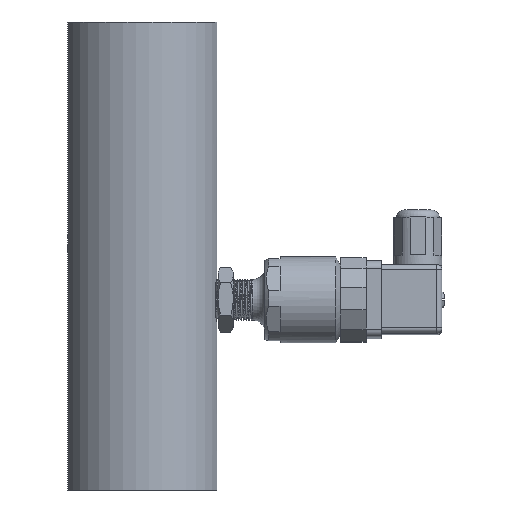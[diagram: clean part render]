
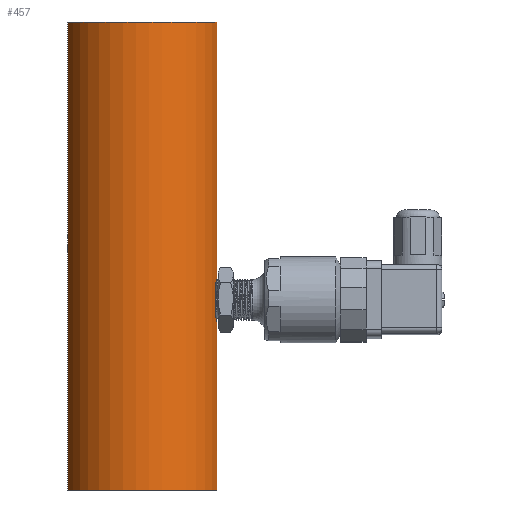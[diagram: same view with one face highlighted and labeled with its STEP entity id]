
A CAD part, left-side view. The second image highlights one B-rep face of the part: STEP entity #457.
In plain terms, the highlighted cylindrical face has radius 31 mm (diameter 62 mm), a partial arc.
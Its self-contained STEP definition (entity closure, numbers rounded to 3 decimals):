
#213=CYLINDRICAL_SURFACE('',#7531,31.);
#292=B_SPLINE_CURVE_WITH_KNOTS('',3,(#10125,#10126,#10127,#10128),
 .UNSPECIFIED.,.F.,.F.,(4,4),(0.,1.),.UNSPECIFIED.);
#293=B_SPLINE_CURVE_WITH_KNOTS('',3,(#10132,#10133,#10134,#10135),
 .UNSPECIFIED.,.F.,.F.,(4,4),(0.,1.),.UNSPECIFIED.);
#457=ADVANCED_FACE('',(#1133),#213,.T.);
#1133=FACE_OUTER_BOUND('',#1510,.T.);
#1510=EDGE_LOOP('',(#3308,#3309,#3310,#3311,#3312,#3313,#3314,#3315));
#1952=LINE('',#10100,#2625);
#1956=LINE('',#10122,#2629);
#1957=LINE('',#10130,#2630);
#1958=LINE('',#10138,#2631);
#2625=VECTOR('',#8161,1.);
#2629=VECTOR('',#8173,1.);
#2630=VECTOR('',#8174,1.);
#2631=VECTOR('',#8177,1.);
#3308=ORIENTED_EDGE('',*,*,#6198,.F.);
#3309=ORIENTED_EDGE('',*,*,#6199,.T.);
#3310=ORIENTED_EDGE('',*,*,#6200,.F.);
#3311=ORIENTED_EDGE('',*,*,#6201,.T.);
#3312=ORIENTED_EDGE('',*,*,#6190,.F.);
#3313=ORIENTED_EDGE('',*,*,#6202,.F.);
#3314=ORIENTED_EDGE('',*,*,#6203,.F.);
#3315=ORIENTED_EDGE('',*,*,#6204,.T.);
#5471=VERTEX_POINT('',#10095);
#5473=VERTEX_POINT('',#10099);
#5480=VERTEX_POINT('',#10123);
#5481=VERTEX_POINT('',#10124);
#5482=VERTEX_POINT('',#10129);
#5483=VERTEX_POINT('',#10131);
#5484=VERTEX_POINT('',#10137);
#5485=VERTEX_POINT('',#10139);
#6190=EDGE_CURVE('',#5473,#5471,#1952,.T.);
#6198=EDGE_CURVE('',#5480,#5481,#1956,.T.);
#6199=EDGE_CURVE('',#5480,#5482,#292,.T.);
#6200=EDGE_CURVE('',#5483,#5482,#1957,.T.);
#6201=EDGE_CURVE('',#5483,#5471,#293,.T.);
#6202=EDGE_CURVE('',#5484,#5473,#7277,.T.);
#6203=EDGE_CURVE('',#5485,#5484,#1958,.T.);
#6204=EDGE_CURVE('',#5485,#5481,#7278,.T.);
#7277=CIRCLE('',#7529,31.);
#7278=CIRCLE('',#7530,31.);
#7529=AXIS2_PLACEMENT_3D('',#10136,#8175,#8176);
#7530=AXIS2_PLACEMENT_3D('',#10140,#8178,#8179);
#7531=AXIS2_PLACEMENT_3D('',#10141,#8180,#8181);
#8161=DIRECTION('',(0.,0.,-1.));
#8173=DIRECTION('',(0.,0.,-1.));
#8174=DIRECTION('',(0.,0.,-1.));
#8175=DIRECTION('',(0.,0.,1.));
#8176=DIRECTION('',(1.,0.,0.));
#8177=DIRECTION('',(0.,0.,1.));
#8178=DIRECTION('',(0.,0.,1.));
#8179=DIRECTION('',(1.,0.,0.));
#8180=DIRECTION('',(0.,0.,-1.));
#8181=DIRECTION('',(-1.,0.,0.));
#10095=CARTESIAN_POINT('',(-9.528,-29.5,83.845));
#10099=CARTESIAN_POINT('',(-9.528,-29.5,185.));
#10100=CARTESIAN_POINT('',(-9.528,-29.5,185.));
#10122=CARTESIAN_POINT('',(-9.528,-29.5,185.));
#10123=CARTESIAN_POINT('',(-9.528,-29.5,66.155));
#10124=CARTESIAN_POINT('',(-9.528,-29.5,0.));
#10125=CARTESIAN_POINT('',(-9.528,-29.5,66.155));
#10126=CARTESIAN_POINT('',(-10.056,-29.329,66.724));
#10127=CARTESIAN_POINT('',(-10.535,-29.158,67.344));
#10128=CARTESIAN_POINT('',(-10.954,-29.,68.));
#10129=CARTESIAN_POINT('',(-10.954,-29.,68.));
#10130=CARTESIAN_POINT('',(-10.954,-29.,185.));
#10131=CARTESIAN_POINT('',(-10.954,-29.,82.));
#10132=CARTESIAN_POINT('',(-10.954,-29.,82.));
#10133=CARTESIAN_POINT('',(-10.535,-29.158,82.656));
#10134=CARTESIAN_POINT('',(-10.056,-29.329,83.276));
#10135=CARTESIAN_POINT('',(-9.528,-29.5,83.845));
#10136=CARTESIAN_POINT('',(0.,0.,185.));
#10137=CARTESIAN_POINT('',(-9.528,29.5,185.));
#10138=CARTESIAN_POINT('',(-9.528,29.5,185.));
#10139=CARTESIAN_POINT('',(-9.528,29.5,0.));
#10140=CARTESIAN_POINT('',(0.,0.,0.));
#10141=CARTESIAN_POINT('',(0.,0.,185.));
